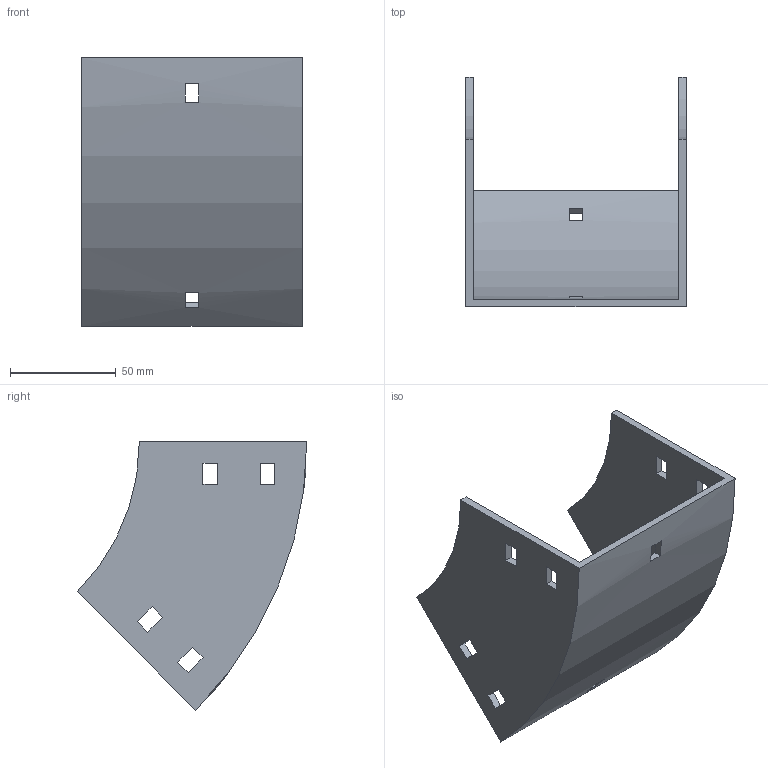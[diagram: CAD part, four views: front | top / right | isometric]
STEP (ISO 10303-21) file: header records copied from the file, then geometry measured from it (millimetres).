
FILE_DESCRIPTION (( 'STEP AP214' ), '1' );
FILE_NAME ('31B1C100.step', '2025-02-21T09:47:34', ( '' ), ( '' ), 'SwSTEP 2.0', 'SolidWorks 2023', '' );
FILE_SCHEMA (( 'AUTOMOTIVE_DESIGN' ));
Length unit declared in the file: millimetre
Products named in the file (1): 31B1C100
Bounding box: 104 x 108.29 x 126.57 mm (x, y, z)
Volume: 105479.4 mm3; surface area: 63788.4 mm2
Topology: 1 solids, 1 shells, 50 faces, 144 edges, 96 vertices
Faces by surface type: plane 46, cylinder 4
Entity records: 1687 total; most frequent: CARTESIAN_POINT 291, ORIENTED_EDGE 288, DIRECTION 262, EDGE_CURVE 144, VECTOR 128, LINE 128, VERTEX_POINT 96, EDGE_LOOP 70
